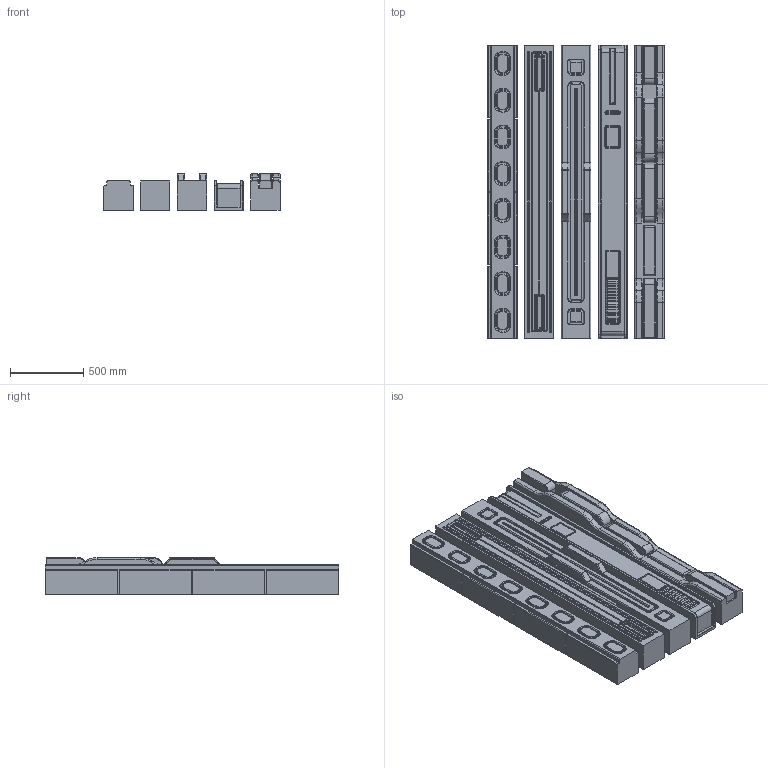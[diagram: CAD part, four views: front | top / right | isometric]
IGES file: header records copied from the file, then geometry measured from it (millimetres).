
Global section: file name: SideTileSet20x200; native system: unknown; preprocessor: unknown; author: unknown; organization: unknown; date: 20220510.170445; units: centimetre
Bounding box: 1200 x 2000 x 250 mm (x, y, z)
Volume: 378321495.6 mm3; surface area: 9896142.6 mm2
Topology: 5 solids, 5 shells, 1307 faces, 3043 edges, 1782 vertices
Faces by surface type: bspline 1307
